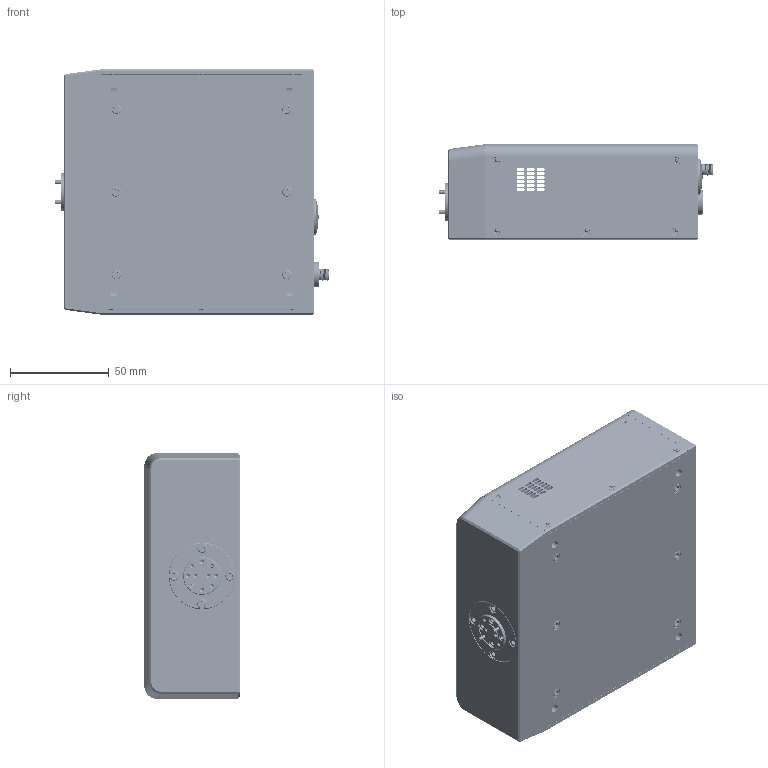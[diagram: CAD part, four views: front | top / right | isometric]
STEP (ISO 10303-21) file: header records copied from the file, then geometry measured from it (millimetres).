
FILE_DESCRIPTION (( 'STEP AP214' ), '1' );
FILE_NAME ('TC-F-A-IDP Mountable.STEP', '2026-01-02T22:55:43', ( '' ), ( '' ), 'SwSTEP 2.0', 'SolidWorks 2021', '' );
FILE_SCHEMA (( 'AUTOMOTIVE_DESIGN' ));
Length unit declared in the file: inch
Products named in the file (1): TC-F-A-IDP Mountable
Bounding box: 139.21 x 48.26 x 124.32 mm (x, y, z)
Volume: 270349.3 mm3; surface area: 137820.2 mm2
Topology: 37 solids, 37 shells, 2934 faces, 7919 edges, 5023 vertices
Faces by surface type: cylinder 1536, plane 826, cone 500, bspline 65, torus 4, sphere 3
Entity records: 161168 total; most frequent: CARTESIAN_POINT 55374, ORIENTED_EDGE 15478, DIRECTION 12626, EDGE_CURVE 7739, VERTEX_POINT 5022, AXIS2_PLACEMENT_3D 4629, LINE 3368, VECTOR 3368
